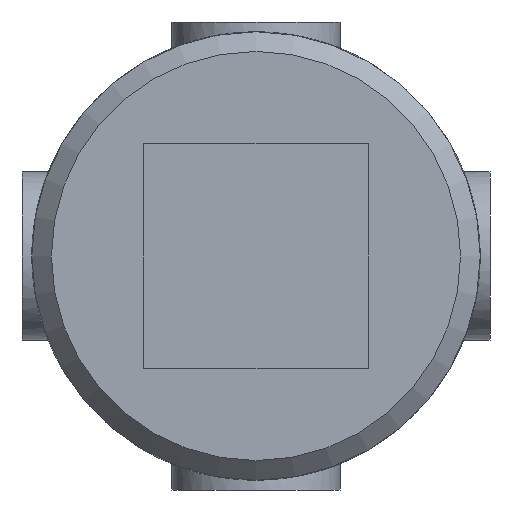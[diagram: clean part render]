
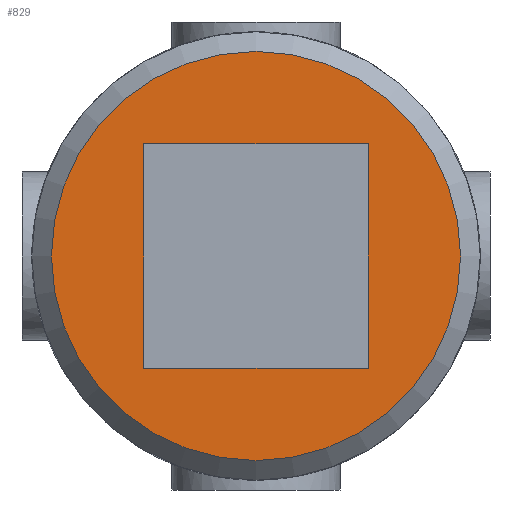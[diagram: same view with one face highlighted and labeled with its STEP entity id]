
A CAD part, front view. The second image highlights one B-rep face of the part: STEP entity #829.
In plain terms, the highlighted planar face has unit normal (0, -1, 0).
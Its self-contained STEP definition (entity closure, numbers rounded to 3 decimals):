
#92=LINE('',#1239,#132);
#96=LINE('',#1262,#136);
#102=LINE('',#1300,#142);
#105=LINE('',#1320,#145);
#132=VECTOR('',#1016,8.);
#136=VECTOR('',#1024,8.);
#142=VECTOR('',#1032,8.);
#145=VECTOR('',#1039,8.);
#172=PLANE('',#903);
#197=FACE_BOUND('',#297,.T.);
#232=FACE_OUTER_BOUND('',#296,.T.);
#296=EDGE_LOOP('',(#671));
#297=EDGE_LOOP('',(#672,#673,#674,#675));
#346=CIRCLE('',#901,7.3);
#384=VERTEX_POINT('',#1236);
#385=VERTEX_POINT('',#1238);
#391=VERTEX_POINT('',#1261);
#400=VERTEX_POINT('',#1298);
#407=VERTEX_POINT('',#1365);
#471=EDGE_CURVE('',#385,#384,#92,.T.);
#478=EDGE_CURVE('',#391,#385,#96,.T.);
#488=EDGE_CURVE('',#384,#400,#102,.T.);
#494=EDGE_CURVE('',#400,#391,#105,.T.);
#505=EDGE_CURVE('',#407,#407,#346,.T.);
#671=ORIENTED_EDGE('',*,*,#505,.F.);
#672=ORIENTED_EDGE('',*,*,#471,.T.);
#673=ORIENTED_EDGE('',*,*,#488,.T.);
#674=ORIENTED_EDGE('',*,*,#494,.T.);
#675=ORIENTED_EDGE('',*,*,#478,.T.);
#829=ADVANCED_FACE('',(#232,#197),#172,.F.);
#901=AXIS2_PLACEMENT_3D('',#1366,#1068,#1069);
#903=AXIS2_PLACEMENT_3D('',#1534,#1076,#1077);
#1016=DIRECTION('',(0.,0.,-1.));
#1024=DIRECTION('',(1.,0.,0.));
#1032=DIRECTION('',(-1.,0.,0.));
#1039=DIRECTION('',(0.,0.,1.));
#1068=DIRECTION('center_axis',(0.,1.,0.));
#1069=DIRECTION('ref_axis',(1.,0.,0.));
#1076=DIRECTION('center_axis',(0.,1.,0.));
#1077=DIRECTION('ref_axis',(0.,0.,1.));
#1236=CARTESIAN_POINT('',(4.,-30.,-4.));
#1238=CARTESIAN_POINT('',(4.,-30.,4.));
#1239=CARTESIAN_POINT('',(4.,-30.,2.));
#1261=CARTESIAN_POINT('',(-4.,-30.,4.));
#1262=CARTESIAN_POINT('',(-2.,-30.,4.));
#1298=CARTESIAN_POINT('',(-4.,-30.,-4.));
#1300=CARTESIAN_POINT('',(2.,-30.,-4.));
#1320=CARTESIAN_POINT('',(-4.,-30.,-2.));
#1365=CARTESIAN_POINT('',(-7.3,-30.,0.));
#1366=CARTESIAN_POINT('Origin',(0.,-30.,0.));
#1534=CARTESIAN_POINT('Origin',(0.,-30.,0.));
